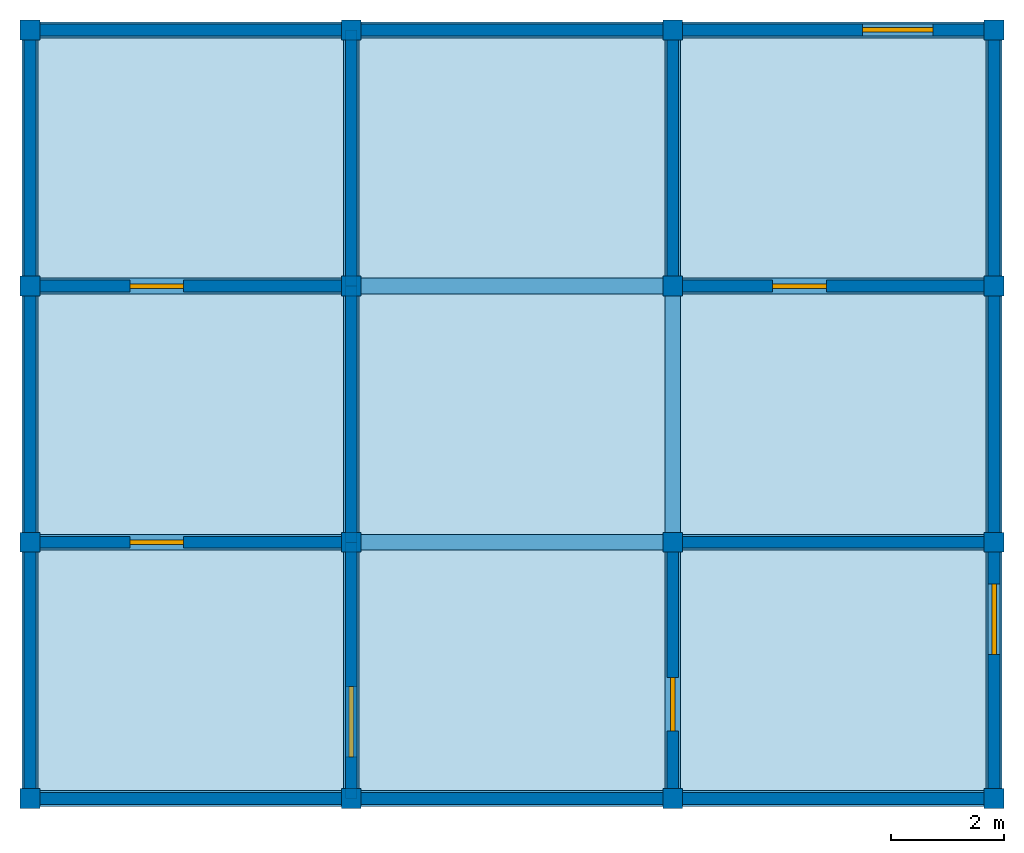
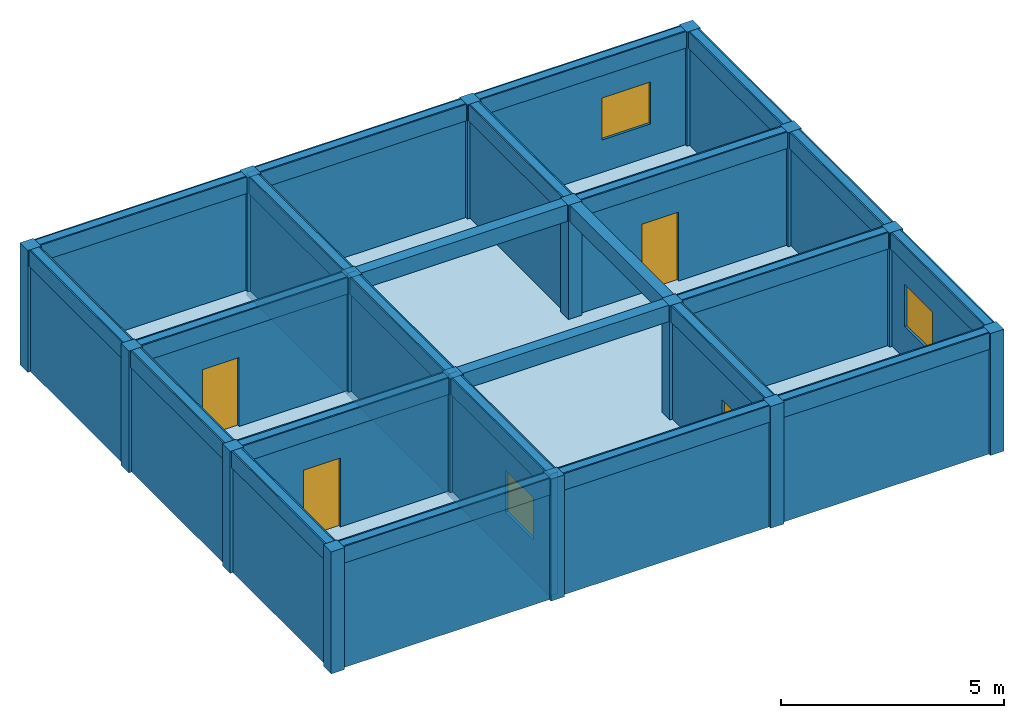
# One storey: 24 beams, 24 walls, 16 columns, 4 doors, 3 windows, 1 slab, 7 openings.
"""IFC4X3 building model written with IfcOpenShell, lengths in metres."""

import ifcopenshell
import ifcopenshell.guid

model = None  # the IFC model being written
_history = None  # IfcOwnerHistory: only IFC2X3 demands one
_inside = {}  # id of a spatial element -> (the spatial element, [elements in it])
_under = {}  # id of a project, library or spatial element -> (it, [spatial elements below it])
_declared = {}  # id of a project -> (the project, [libraries it declares])
_typed = {}  # id of a type object -> (the type object, [elements of that type])
_made_of = {}  # id of a material, layer set ... -> (it, [elements and type objects made of it])


def new_model(schema):
    """Start an empty IFC model of exactly this schema.

    Asked for "IFC4X3", IfcOpenShell would pick the latest addendum, in which some entities
    have other attributes; the version numbers below select the first issue.
    IFC2X3 requires an IfcOwnerHistory on every rooted entity: one is made here for all.
    """
    global model, _history
    if schema == "IFC4X3":
        model = ifcopenshell.file(schema_version=(4, 3, 0, 0))
    else:
        model = ifcopenshell.file(schema=schema)
    _inside.clear()
    _under.clear()
    _declared.clear()
    _typed.clear()
    _made_of.clear()
    _history = None
    if model.schema == "IFC2X3":
        org = make("IfcOrganization", Name="unknown")
        user = make(
            "IfcPersonAndOrganization",
            ThePerson=make("IfcPerson", FamilyName="unknown"),
            TheOrganization=org,
        )
        app = make(
            "IfcApplication",
            ApplicationDeveloper=org,
            Version="unknown",
            ApplicationFullName="unknown",
            ApplicationIdentifier="unknown",
        )
        _history = make(
            "IfcOwnerHistory",
            OwningUser=user,
            OwningApplication=app,
            ChangeAction="ADDED",
            CreationDate=0,
        )
    return model


def make(cls, **values):
    """One entity of the class cls with the attributes given. An attribute that is None is left unset."""
    return model.create_entity(
        cls, **{name: value for name, value in values.items() if value is not None}
    )


def rooted(cls, **values):
    """An entity with a GlobalId (a new one), such as an element, a storey or a relation."""
    return make(cls, GlobalId=ifcopenshell.guid.new(), OwnerHistory=_history, **values)


def si_unit(unit_type, name, prefix=None):
    """IfcSIUnit, for example si_unit("LENGTHUNIT", "METRE", prefix="MILLI")."""
    return make("IfcSIUnit", UnitType=unit_type, Prefix=prefix, Name=name)


def assignment(units):
    """IfcUnitAssignment: the units of a project."""
    return None if units is None else make("IfcUnitAssignment", Units=units)


def point(xyz):
    """IfcCartesianPoint."""
    return None if xyz is None else make("IfcCartesianPoint", Coordinates=xyz)


def direction(xyz):
    """IfcDirection."""
    return None if xyz is None else make("IfcDirection", DirectionRatios=xyz)


def frame(location, z_axis=None, x_axis=None):
    """IfcAxis2Placement3D, a coordinate frame: its origin and axes. An axis left out is left unset."""
    return make(
        "IfcAxis2Placement3D",
        Location=point(location),
        Axis=direction(z_axis),
        RefDirection=direction(x_axis),
    )


def frame_2d(location, x_axis=None):
    """IfcAxis2Placement2D, a coordinate frame in the plane: its origin and x axis."""
    return make(
        "IfcAxis2Placement2D", Location=point(location), RefDirection=direction(x_axis)
    )


def origin_with_axes():
    """The frame at (0, 0, 0) with the z axis (0, 0, 1) and the x axis (1, 0, 0) written out."""
    return frame((0.0, 0.0, 0.0), z_axis=(0.0, 0.0, 1.0), x_axis=(1.0, 0.0, 0.0))


def origin_2d():
    """The frame at (0, 0) in the plane with its x axis left unset."""
    return frame_2d((0.0, 0.0))


def place(relative_to, where):
    """IfcLocalPlacement: puts the frame where relative to a parent placement (None: the world)."""
    return make(
        "IfcLocalPlacement", PlacementRelTo=relative_to, RelativePlacement=where
    )


def context(
    kind, dimensions, precision=None, world=None, true_north=None, identifier=None
):
    """IfcGeometricRepresentationContext, for example the 3D "Model" context."""
    return make(
        "IfcGeometricRepresentationContext",
        ContextIdentifier=identifier,
        ContextType=kind,
        CoordinateSpaceDimension=dimensions,
        Precision=precision,
        WorldCoordinateSystem=world,
        TrueNorth=true_north,
    )


def project(units=None, contexts=None):
    """IfcProject with its units and contexts."""
    return rooted(
        "IfcProject",
        Name="project",
        RepresentationContexts=contexts,
        UnitsInContext=assignment(units),
    )


def spatial(cls, under=None, at=None, **own):
    """A site, building, storey or space (cls), placed at a placement, below another one or the project."""
    s = rooted(cls, ObjectPlacement=at, **own)
    if under is not None:
        _under.setdefault(under.id(), (under, []))[1].append(s)
    return s


def profile(cls, at=None, kind="AREA", **sizes):
    """A parametric profile (cls). Its sizes go by their IFC names, for example OverallWidth=200.0."""
    return make(cls, ProfileType=kind, Position=at, **sizes)


def rectangle(**sizes):
    """IfcRectangleProfileDef."""
    return profile("IfcRectangleProfileDef", **sizes)


def extrude(swept, where, along, depth):
    """IfcExtrudedAreaSolid: the profile swept, set in the frame where, extruded along a direction by depth."""
    return make(
        "IfcExtrudedAreaSolid",
        SweptArea=swept,
        Position=where,
        ExtrudedDirection=direction(along),
        Depth=depth,
    )


def shape(context_of_items, identifier, shape_type, items):
    """IfcShapeRepresentation: the items that make up one representation, for example the "Body"."""
    return make(
        "IfcShapeRepresentation",
        ContextOfItems=context_of_items,
        RepresentationIdentifier=identifier,
        RepresentationType=shape_type,
        Items=items,
    )


def material(Name=None, Category=None):
    """IfcMaterial."""
    return make("IfcMaterial", Name=Name, Category=Category)


def made_of(thing, what):
    """Note that an element or type object is made of a material, layer set ...; save() writes the relation."""
    if what is not None:
        _made_of.setdefault(what.id(), (what, []))[1].append(thing)
    return thing


def element(
    cls,
    number,
    at=None,
    inside=None,
    cuts=None,
    type_object=None,
    material=None,
    context=None,
    identifier="Body",
    shape_type=None,
    held_by="IfcProductDefinitionShape",
    body=None,
    shapes=None,
    **own,
):
    """One element of the class cls, such as IfcWall. Its Tag is "e" and its number.

    at: its placement. inside: the storey or other place that contains it. cuts: it is an
    opening in that element (IfcRelVoidsElement). A single representation is given by context,
    identifier, shape_type and body (its items); several are given by shapes. held_by: the class
    of the entity that holds the representations. save() writes the other relations.
    """
    e = rooted(cls, Tag="e%d" % number, ObjectPlacement=at, **own)
    if body is not None:
        shapes = [shape(context, identifier, shape_type, body)]
    if shapes is not None:
        e.Representation = make(held_by, Representations=shapes)
    if inside is not None:
        _inside.setdefault(inside.id(), (inside, []))[1].append(e)
    if cuts is not None:
        rooted(
            "IfcRelVoidsElement", RelatingBuildingElement=cuts, RelatedOpeningElement=e
        )
    if type_object is not None:
        _typed.setdefault(type_object.id(), (type_object, []))[1].append(e)
    return made_of(e, material)


def fill(opening, filler):
    """IfcRelFillsElement: the door or window that sits in an opening."""
    return rooted(
        "IfcRelFillsElement",
        RelatingOpeningElement=opening,
        RelatedBuildingElement=filler,
    )


def aggregate(whole, parts):
    """IfcRelAggregates: a whole, such as a stair, and the parts it consists of."""
    return rooted("IfcRelAggregates", RelatingObject=whole, RelatedObjects=parts)


def save(model, path):
    """Write the relations noted so far, then the file.

    IfcRelAggregates (storeys below a building ...), IfcRelContainedInSpatialStructure (elements
    in a storey), IfcRelDefinesByType, IfcRelAssociatesMaterial and IfcRelDeclares: one each for
    every whole, place, type object, material and project.
    """
    for whole, parts in _under.values():
        aggregate(whole, parts)
    for where, things in _inside.values():
        rooted(
            "IfcRelContainedInSpatialStructure",
            RelatedElements=things,
            RelatingStructure=where,
        )
    for kind, things in _typed.values():
        rooted("IfcRelDefinesByType", RelatedObjects=things, RelatingType=kind)
    for what, things in _made_of.values():
        rooted("IfcRelAssociatesMaterial", RelatedObjects=things, RelatingMaterial=what)
    for by, libraries in _declared.values():
        rooted("IfcRelDeclares", RelatingContext=by, RelatedDefinitions=libraries)
    model.write(path)


model = new_model("IFC4X3")

# Units and contexts
model_context = context("Model", 3, precision=1e-05, world=origin_with_axes())
ifc_project = project(units=[si_unit("LENGTHUNIT", "METRE"), si_unit("AREAUNIT", "SQUARE_METRE"), si_unit("VOLUMEUNIT", "CUBIC_METRE")], contexts=[model_context])

# Site, building, storey
site = spatial("IfcSite", under=ifc_project, Name="Valdivia Parcel", CompositionType="ELEMENT")
building = spatial("IfcBuilding", under=site, Name="Strata Block", CompositionType="ELEMENT")
storey = spatial("IfcBuildingStorey", under=building, Name="Level 7", CompositionType="ELEMENT", Elevation=20.01)

# Columns
ifc_material_1 = material(Name="Concrete")
column_1_placement = place(None, frame((-8.525, -6.795, 20.013), z_axis=(0.0, 0.0, 1.0), x_axis=(1.0, 0.0, 0.0)))
element("IfcColumn", 1, at=column_1_placement, inside=storey, material=ifc_material_1, Name="Column 7.1", ObjectType="Core Column", PredefinedType="PILASTER", context=model_context, shape_type="SweptSolid", body=[
    extrude(rectangle(XDim=0.35, YDim=0.35, at=origin_2d()), origin_with_axes(), (0.0, 0.0, 1.0), 3.335),
])
column_2_placement = place(None, frame((-8.525, -2.265, 20.013), z_axis=(0.0, 0.0, 1.0), x_axis=(1.0, 0.0, 0.0)))
element("IfcColumn", 2, at=column_2_placement, inside=storey, material=ifc_material_1, Name="Column 7.2", ObjectType="Corner Column", PredefinedType="USERDEFINED", context=model_context, shape_type="SweptSolid", body=[
    extrude(rectangle(XDim=0.35, YDim=0.35, at=origin_2d()), origin_with_axes(), (0.0, 0.0, 1.0), 3.335),
])
column_3_placement = place(None, frame((-8.525, 2.265, 20.013), z_axis=(0.0, 0.0, 1.0), x_axis=(1.0, 0.0, 0.0)))
element("IfcColumn", 3, at=column_3_placement, inside=storey, material=ifc_material_1, Name="Column 7.3", ObjectType="Core Column", PredefinedType="COLUMN", context=model_context, shape_type="SweptSolid", body=[
    extrude(rectangle(XDim=0.35, YDim=0.35, at=origin_2d()), origin_with_axes(), (0.0, 0.0, 1.0), 3.335),
])
column_4_placement = place(None, frame((-8.525, 6.795, 20.013), z_axis=(0.0, 0.0, 1.0), x_axis=(1.0, 0.0, 0.0)))
element("IfcColumn", 4, at=column_4_placement, inside=storey, material=ifc_material_1, Name="Column 7.4", ObjectType="Facade Column", PredefinedType="NOTDEFINED", context=model_context, shape_type="SweptSolid", body=[
    extrude(rectangle(XDim=0.35, YDim=0.35, at=origin_2d()), origin_with_axes(), (0.0, 0.0, 1.0), 3.335),
])
column_5_placement = place(None, frame((-2.842, -6.795, 20.013), z_axis=(0.0, 0.0, 1.0), x_axis=(1.0, 0.0, 0.0)))
element("IfcColumn", 5, at=column_5_placement, inside=storey, material=ifc_material_1, Name="Column 7.5", ObjectType="Core Column", PredefinedType="NOTDEFINED", context=model_context, shape_type="SweptSolid", body=[
    extrude(rectangle(XDim=0.35, YDim=0.35, at=origin_2d()), origin_with_axes(), (0.0, 0.0, 1.0), 3.335),
])
column_6_placement = place(None, frame((-2.842, -2.265, 20.013), z_axis=(0.0, 0.0, 1.0), x_axis=(1.0, 0.0, 0.0)))
element("IfcColumn", 6, at=column_6_placement, inside=storey, material=ifc_material_1, Name="Column 7.6", ObjectType="Core Column", PredefinedType="PILASTER", context=model_context, shape_type="SweptSolid", body=[
    extrude(rectangle(XDim=0.35, YDim=0.35, at=origin_2d()), origin_with_axes(), (0.0, 0.0, 1.0), 3.335),
])
column_7_placement = place(None, frame((-2.842, 2.265, 20.013), z_axis=(0.0, 0.0, 1.0), x_axis=(1.0, 0.0, 0.0)))
element("IfcColumn", 7, at=column_7_placement, inside=storey, material=ifc_material_1, Name="Column 7.7", ObjectType="Structural Column", PredefinedType="COLUMN", context=model_context, shape_type="SweptSolid", body=[
    extrude(rectangle(XDim=0.35, YDim=0.35, at=origin_2d()), origin_with_axes(), (0.0, 0.0, 1.0), 3.335),
])
column_8_placement = place(None, frame((-2.842, 6.795, 20.013), z_axis=(0.0, 0.0, 1.0), x_axis=(1.0, 0.0, 0.0)))
element("IfcColumn", 8, at=column_8_placement, inside=storey, material=ifc_material_1, Name="Column 7.8", ObjectType="Corner Column", PredefinedType="COLUMN", context=model_context, shape_type="SweptSolid", body=[
    extrude(rectangle(XDim=0.35, YDim=0.35, at=origin_2d()), origin_with_axes(), (0.0, 0.0, 1.0), 3.335),
])
column_9_placement = place(None, frame((2.841, -6.795, 20.013), z_axis=(0.0, 0.0, 1.0), x_axis=(1.0, 0.0, 0.0)))
element("IfcColumn", 9, at=column_9_placement, inside=storey, material=ifc_material_1, Name="Column 7.9", ObjectType="Facade Column", PredefinedType="USERDEFINED", context=model_context, shape_type="SweptSolid", body=[
    extrude(rectangle(XDim=0.35, YDim=0.35, at=origin_2d()), origin_with_axes(), (0.0, 0.0, 1.0), 3.335),
])
column_10_placement = place(None, frame((2.841, -2.265, 20.013), z_axis=(0.0, 0.0, 1.0), x_axis=(1.0, 0.0, 0.0)))
element("IfcColumn", 10, at=column_10_placement, inside=storey, material=ifc_material_1, Name="Column 7.10", ObjectType="Structural Column", PredefinedType="COLUMN", context=model_context, shape_type="SweptSolid", body=[
    extrude(rectangle(XDim=0.35, YDim=0.35, at=origin_2d()), origin_with_axes(), (0.0, 0.0, 1.0), 3.335),
])
column_11_placement = place(None, frame((2.841, 2.265, 20.013), z_axis=(0.0, 0.0, 1.0), x_axis=(1.0, 0.0, 0.0)))
element("IfcColumn", 11, at=column_11_placement, inside=storey, material=ifc_material_1, Name="Column 7.11", ObjectType="Structural Column", PredefinedType="PILASTER", context=model_context, shape_type="SweptSolid", body=[
    extrude(rectangle(XDim=0.35, YDim=0.35, at=origin_2d()), origin_with_axes(), (0.0, 0.0, 1.0), 3.335),
])
column_12_placement = place(None, frame((2.841, 6.795, 20.013), z_axis=(0.0, 0.0, 1.0), x_axis=(1.0, 0.0, 0.0)))
element("IfcColumn", 12, at=column_12_placement, inside=storey, material=ifc_material_1, Name="Column 7.12", ObjectType="Corner Column", PredefinedType="USERDEFINED", context=model_context, shape_type="SweptSolid", body=[
    extrude(rectangle(XDim=0.35, YDim=0.35, at=origin_2d()), origin_with_axes(), (0.0, 0.0, 1.0), 3.335),
])
column_13_placement = place(None, frame((8.524, -6.795, 20.013), z_axis=(0.0, 0.0, 1.0), x_axis=(1.0, 0.0, 0.0)))
element("IfcColumn", 13, at=column_13_placement, inside=storey, material=ifc_material_1, Name="Column 7.13", ObjectType="Structural Column", PredefinedType="NOTDEFINED", context=model_context, shape_type="SweptSolid", body=[
    extrude(rectangle(XDim=0.35, YDim=0.35, at=origin_2d()), origin_with_axes(), (0.0, 0.0, 1.0), 3.335),
])
column_14_placement = place(None, frame((8.524, -2.265, 20.013), z_axis=(0.0, 0.0, 1.0), x_axis=(1.0, 0.0, 0.0)))
element("IfcColumn", 14, at=column_14_placement, inside=storey, material=ifc_material_1, Name="Column 7.14", ObjectType="Core Column", PredefinedType="USERDEFINED", context=model_context, shape_type="SweptSolid", body=[
    extrude(rectangle(XDim=0.35, YDim=0.35, at=origin_2d()), origin_with_axes(), (0.0, 0.0, 1.0), 3.335),
])
column_15_placement = place(None, frame((8.524, 2.265, 20.013), z_axis=(0.0, 0.0, 1.0), x_axis=(1.0, 0.0, 0.0)))
element("IfcColumn", 15, at=column_15_placement, inside=storey, material=ifc_material_1, Name="Column 7.15", ObjectType="Facade Column", PredefinedType="PILASTER", context=model_context, shape_type="SweptSolid", body=[
    extrude(rectangle(XDim=0.35, YDim=0.35, at=origin_2d()), origin_with_axes(), (0.0, 0.0, 1.0), 3.335),
])
column_16_placement = place(None, frame((8.524, 6.795, 20.013), z_axis=(0.0, 0.0, 1.0), x_axis=(1.0, 0.0, 0.0)))
element("IfcColumn", 16, at=column_16_placement, inside=storey, material=ifc_material_1, Name="Column 7.16", ObjectType="Corner Column", PredefinedType="COLUMN", context=model_context, shape_type="SweptSolid", body=[
    extrude(rectangle(XDim=0.35, YDim=0.35, at=origin_2d()), origin_with_axes(), (0.0, 0.0, 1.0), 3.335),
])

# Beams
beam_1_placement = place(None, frame((-5.684, -6.795, 22.898), z_axis=(0.0, 0.0, 1.0), x_axis=(1.0, 0.0, 0.0)))
element("IfcBeam", 17, at=beam_1_placement, inside=storey, material=ifc_material_1, Name="Beam 7.1", ObjectType="Ridge Beam", PredefinedType="SPANDREL", context=model_context, shape_type="SweptSolid", body=[
    extrude(rectangle(XDim=5.683, YDim=0.28, at=origin_2d()), origin_with_axes(), (0.0, 0.0, 1.0), 0.45),
])
beam_2_placement = place(None, frame((0.0, -6.795, 22.898), z_axis=(0.0, 0.0, 1.0), x_axis=(1.0, 0.0, 0.0)))
element("IfcBeam", 18, at=beam_2_placement, inside=storey, material=ifc_material_1, Name="Beam 7.2", ObjectType="Primary Beam", PredefinedType="NOTDEFINED", context=model_context, shape_type="SweptSolid", body=[
    extrude(rectangle(XDim=5.683, YDim=0.28, at=origin_2d()), origin_with_axes(), (0.0, 0.0, 1.0), 0.45),
])
beam_3_placement = place(None, frame((5.682, -6.795, 22.898), z_axis=(0.0, 0.0, 1.0), x_axis=(1.0, 0.0, 0.0)))
element("IfcBeam", 19, at=beam_3_placement, inside=storey, material=ifc_material_1, Name="Beam 7.3", ObjectType="Primary Beam", PredefinedType="SPANDREL", context=model_context, shape_type="SweptSolid", body=[
    extrude(rectangle(XDim=5.683, YDim=0.28, at=origin_2d()), origin_with_axes(), (0.0, 0.0, 1.0), 0.45),
])
beam_4_placement = place(None, frame((-5.684, -2.265, 22.898), z_axis=(0.0, 0.0, 1.0), x_axis=(1.0, 0.0, 0.0)))
element("IfcBeam", 20, at=beam_4_placement, inside=storey, material=ifc_material_1, Name="Beam 7.4", ObjectType="Primary Beam", PredefinedType="BEAM", context=model_context, shape_type="SweptSolid", body=[
    extrude(rectangle(XDim=5.683, YDim=0.28, at=origin_2d()), origin_with_axes(), (0.0, 0.0, 1.0), 0.45),
])
beam_5_placement = place(None, frame((0.0, -2.265, 22.898), z_axis=(0.0, 0.0, 1.0), x_axis=(1.0, 0.0, 0.0)))
element("IfcBeam", 21, at=beam_5_placement, inside=storey, material=ifc_material_1, Name="Beam 7.5", ObjectType="Ridge Beam", PredefinedType="BEAM", context=model_context, shape_type="SweptSolid", body=[
    extrude(rectangle(XDim=5.683, YDim=0.28, at=origin_2d()), origin_with_axes(), (0.0, 0.0, 1.0), 0.45),
])
beam_6_placement = place(None, frame((5.682, -2.265, 22.898), z_axis=(0.0, 0.0, 1.0), x_axis=(1.0, 0.0, 0.0)))
element("IfcBeam", 22, at=beam_6_placement, inside=storey, material=ifc_material_1, Name="Beam 7.6", ObjectType="Ridge Beam", PredefinedType="SPANDREL", context=model_context, shape_type="SweptSolid", body=[
    extrude(rectangle(XDim=5.683, YDim=0.28, at=origin_2d()), origin_with_axes(), (0.0, 0.0, 1.0), 0.45),
])
beam_7_placement = place(None, frame((-5.684, 2.265, 22.898), z_axis=(0.0, 0.0, 1.0), x_axis=(1.0, 0.0, 0.0)))
element("IfcBeam", 23, at=beam_7_placement, inside=storey, material=ifc_material_1, Name="Beam 7.7", ObjectType="Transfer Beam", PredefinedType="NOTDEFINED", context=model_context, shape_type="SweptSolid", body=[
    extrude(rectangle(XDim=5.683, YDim=0.28, at=origin_2d()), origin_with_axes(), (0.0, 0.0, 1.0), 0.45),
])
beam_8_placement = place(None, frame((0.0, 2.265, 22.898), z_axis=(0.0, 0.0, 1.0), x_axis=(1.0, 0.0, 0.0)))
element("IfcBeam", 24, at=beam_8_placement, inside=storey, material=ifc_material_1, Name="Beam 7.8", ObjectType="Rafter Beam", PredefinedType="SPANDREL", context=model_context, shape_type="SweptSolid", body=[
    extrude(rectangle(XDim=5.683, YDim=0.28, at=origin_2d()), origin_with_axes(), (0.0, 0.0, 1.0), 0.45),
])
beam_9_placement = place(None, frame((5.682, 2.265, 22.898), z_axis=(0.0, 0.0, 1.0), x_axis=(1.0, 0.0, 0.0)))
element("IfcBeam", 25, at=beam_9_placement, inside=storey, material=ifc_material_1, Name="Beam 7.9", ObjectType="Primary Beam", PredefinedType="HOLLOWCORE", context=model_context, shape_type="SweptSolid", body=[
    extrude(rectangle(XDim=5.683, YDim=0.28, at=origin_2d()), origin_with_axes(), (0.0, 0.0, 1.0), 0.45),
])
beam_10_placement = place(None, frame((-5.684, 6.795, 22.898), z_axis=(0.0, 0.0, 1.0), x_axis=(1.0, 0.0, 0.0)))
element("IfcBeam", 26, at=beam_10_placement, inside=storey, material=ifc_material_1, Name="Beam 7.10", ObjectType="Primary Beam", PredefinedType="USERDEFINED", context=model_context, shape_type="SweptSolid", body=[
    extrude(rectangle(XDim=5.683, YDim=0.28, at=origin_2d()), origin_with_axes(), (0.0, 0.0, 1.0), 0.45),
])
beam_11_placement = place(None, frame((0.0, 6.795, 22.898), z_axis=(0.0, 0.0, 1.0), x_axis=(1.0, 0.0, 0.0)))
element("IfcBeam", 27, at=beam_11_placement, inside=storey, material=ifc_material_1, Name="Beam 7.11", ObjectType="Rafter Beam", PredefinedType="LINTEL", context=model_context, shape_type="SweptSolid", body=[
    extrude(rectangle(XDim=5.683, YDim=0.28, at=origin_2d()), origin_with_axes(), (0.0, 0.0, 1.0), 0.45),
])
beam_12_placement = place(None, frame((5.682, 6.795, 22.898), z_axis=(0.0, 0.0, 1.0), x_axis=(1.0, 0.0, 0.0)))
element("IfcBeam", 28, at=beam_12_placement, inside=storey, material=ifc_material_1, Name="Beam 7.12", ObjectType="Transfer Beam", PredefinedType="SPANDREL", context=model_context, shape_type="SweptSolid", body=[
    extrude(rectangle(XDim=5.683, YDim=0.28, at=origin_2d()), origin_with_axes(), (0.0, 0.0, 1.0), 0.45),
])
beam_13_placement = place(None, frame((-8.525, -4.53, 22.898), z_axis=(0.0, 0.0, 1.0), x_axis=(0.0, 1.0, 0.0)))
element("IfcBeam", 29, at=beam_13_placement, inside=storey, material=ifc_material_1, Name="Beam 7.13", ObjectType="Rafter Beam", PredefinedType="HOLLOWCORE", context=model_context, shape_type="SweptSolid", body=[
    extrude(rectangle(XDim=4.53, YDim=0.28, at=origin_2d()), origin_with_axes(), (0.0, 0.0, 1.0), 0.45),
])
beam_14_placement = place(None, frame((-8.525, 0.0, 22.898), z_axis=(0.0, 0.0, 1.0), x_axis=(0.0, 1.0, 0.0)))
element("IfcBeam", 30, at=beam_14_placement, inside=storey, material=ifc_material_1, Name="Beam 7.14", ObjectType="Secondary Beam", PredefinedType="LINTEL", context=model_context, shape_type="SweptSolid", body=[
    extrude(rectangle(XDim=4.53, YDim=0.28, at=origin_2d()), origin_with_axes(), (0.0, 0.0, 1.0), 0.45),
])
beam_15_placement = place(None, frame((-8.525, 4.53, 22.898), z_axis=(0.0, 0.0, 1.0), x_axis=(0.0, 1.0, 0.0)))
element("IfcBeam", 31, at=beam_15_placement, inside=storey, material=ifc_material_1, Name="Beam 7.15", ObjectType="Transfer Beam", PredefinedType="USERDEFINED", context=model_context, shape_type="SweptSolid", body=[
    extrude(rectangle(XDim=4.53, YDim=0.28, at=origin_2d()), origin_with_axes(), (0.0, 0.0, 1.0), 0.45),
])
beam_16_placement = place(None, frame((-2.842, -4.53, 22.898), z_axis=(0.0, 0.0, 1.0), x_axis=(0.0, 1.0, 0.0)))
element("IfcBeam", 32, at=beam_16_placement, inside=storey, material=ifc_material_1, Name="Beam 7.16", ObjectType="Primary Beam", PredefinedType="HOLLOWCORE", context=model_context, shape_type="SweptSolid", body=[
    extrude(rectangle(XDim=4.53, YDim=0.28, at=origin_2d()), origin_with_axes(), (0.0, 0.0, 1.0), 0.45),
])
beam_17_placement = place(None, frame((-2.842, 0.0, 22.898), z_axis=(0.0, 0.0, 1.0), x_axis=(0.0, 1.0, 0.0)))
element("IfcBeam", 33, at=beam_17_placement, inside=storey, material=ifc_material_1, Name="Beam 7.17", ObjectType="Secondary Beam", PredefinedType="HOLLOWCORE", context=model_context, shape_type="SweptSolid", body=[
    extrude(rectangle(XDim=4.53, YDim=0.28, at=origin_2d()), origin_with_axes(), (0.0, 0.0, 1.0), 0.45),
])
beam_18_placement = place(None, frame((-2.842, 4.53, 22.898), z_axis=(0.0, 0.0, 1.0), x_axis=(0.0, 1.0, 0.0)))
element("IfcBeam", 34, at=beam_18_placement, inside=storey, material=ifc_material_1, Name="Beam 7.18", ObjectType="Rafter Beam", PredefinedType="JOIST", context=model_context, shape_type="SweptSolid", body=[
    extrude(rectangle(XDim=4.53, YDim=0.28, at=origin_2d()), origin_with_axes(), (0.0, 0.0, 1.0), 0.45),
])
beam_19_placement = place(None, frame((2.841, -4.53, 22.898), z_axis=(0.0, 0.0, 1.0), x_axis=(0.0, 1.0, 0.0)))
element("IfcBeam", 35, at=beam_19_placement, inside=storey, material=ifc_material_1, Name="Beam 7.19", ObjectType="Transfer Beam", PredefinedType="JOIST", context=model_context, shape_type="SweptSolid", body=[
    extrude(rectangle(XDim=4.53, YDim=0.28, at=origin_2d()), origin_with_axes(), (0.0, 0.0, 1.0), 0.45),
])
beam_20_placement = place(None, frame((2.841, 0.0, 22.898), z_axis=(0.0, 0.0, 1.0), x_axis=(0.0, 1.0, 0.0)))
element("IfcBeam", 36, at=beam_20_placement, inside=storey, material=ifc_material_1, Name="Beam 7.20", ObjectType="Transfer Beam", PredefinedType="USERDEFINED", context=model_context, shape_type="SweptSolid", body=[
    extrude(rectangle(XDim=4.53, YDim=0.28, at=origin_2d()), origin_with_axes(), (0.0, 0.0, 1.0), 0.45),
])
beam_21_placement = place(None, frame((2.841, 4.53, 22.898), z_axis=(0.0, 0.0, 1.0), x_axis=(0.0, 1.0, 0.0)))
element("IfcBeam", 37, at=beam_21_placement, inside=storey, material=ifc_material_1, Name="Beam 7.21", ObjectType="Secondary Beam", PredefinedType="USERDEFINED", context=model_context, shape_type="SweptSolid", body=[
    extrude(rectangle(XDim=4.53, YDim=0.28, at=origin_2d()), origin_with_axes(), (0.0, 0.0, 1.0), 0.45),
])
beam_22_placement = place(None, frame((8.524, -4.53, 22.898), z_axis=(0.0, 0.0, 1.0), x_axis=(0.0, 1.0, 0.0)))
element("IfcBeam", 38, at=beam_22_placement, inside=storey, material=ifc_material_1, Name="Beam 7.22", ObjectType="Rafter Beam", PredefinedType="BEAM", context=model_context, shape_type="SweptSolid", body=[
    extrude(rectangle(XDim=4.53, YDim=0.28, at=origin_2d()), origin_with_axes(), (0.0, 0.0, 1.0), 0.45),
])
beam_23_placement = place(None, frame((8.524, 0.0, 22.898), z_axis=(0.0, 0.0, 1.0), x_axis=(0.0, 1.0, 0.0)))
element("IfcBeam", 39, at=beam_23_placement, inside=storey, material=ifc_material_1, Name="Beam 7.23", ObjectType="Transfer Beam", PredefinedType="HOLLOWCORE", context=model_context, shape_type="SweptSolid", body=[
    extrude(rectangle(XDim=4.53, YDim=0.28, at=origin_2d()), origin_with_axes(), (0.0, 0.0, 1.0), 0.45),
])
beam_24_placement = place(None, frame((8.524, 4.53, 22.898), z_axis=(0.0, 0.0, 1.0), x_axis=(0.0, 1.0, 0.0)))
element("IfcBeam", 40, at=beam_24_placement, inside=storey, material=ifc_material_1, Name="Beam 7.24", ObjectType="Ridge Beam", PredefinedType="NOTDEFINED", context=model_context, shape_type="SweptSolid", body=[
    extrude(rectangle(XDim=4.53, YDim=0.28, at=origin_2d()), origin_with_axes(), (0.0, 0.0, 1.0), 0.45),
])

# Slab
ifc_material_2 = material(Name="Composite")
slab_placement = place(None, frame((0.0, 0.0, 20.01), z_axis=(0.0, 0.0, 1.0), x_axis=(1.0, 0.0, 0.0)))
element("IfcSlab", 41, at=slab_placement, inside=storey, material=ifc_material_2, Name="Slab 7", ObjectType="Floor Slab", PredefinedType="FLOOR", context=model_context, shape_type="SweptSolid", body=[
    extrude(rectangle(XDim=17.05, YDim=13.59, at=origin_2d()), origin_with_axes(), (0.0, 0.0, 1.0), 0.22),
])

# Wall, opening, door
ifc_material_3 = material(Name="CLT")
wall_1_placement = place(None, frame((-5.684, -2.265, 20.013), z_axis=(0.0, 0.0, 1.0), x_axis=(1.0, 0.0, 0.0)))
wall_1 = element("IfcWall", 42, at=wall_1_placement, inside=storey, material=ifc_material_3, Name="Wall 7.1", ObjectType="Corridor Partition", PredefinedType="MOVABLE", context=model_context, shape_type="SweptSolid", body=[
    extrude(rectangle(XDim=5.683, YDim=0.208139, at=origin_2d()), origin_with_axes(), (0.0, 0.0, 1.0), 3.335),
])
opening_1_placement = place(None, frame((-6.284, -2.265, 20.013), z_axis=(0.0, 0.0, 1.0), x_axis=(1.0, 0.0, 0.0)))
opening_1 = element("IfcOpeningElement", 43, at=opening_1_placement, cuts=wall_1, Name="Door opening 7.1", ObjectType="Door Opening", PredefinedType="OPENING", context=model_context, shape_type="SweptSolid", body=[
    extrude(rectangle(XDim=0.95, YDim=0.288139, at=origin_2d()), origin_with_axes(), (0.0, 0.0, 1.0), 2.1),
])
door_1_placement = place(None, frame((-6.284, -2.265, 20.013), z_axis=(0.0, 0.0, 1.0), x_axis=(1.0, 0.0, 0.0)))
door_1 = element("IfcDoor", 44, at=door_1_placement, inside=storey, Name="Door 7.1", ObjectType="Entry Door", OverallHeight=2.1, OverallWidth=0.95, context=model_context, shape_type="SweptSolid", body=[
    extrude(rectangle(XDim=0.95, YDim=0.08, at=origin_2d()), origin_with_axes(), (0.0, 0.0, 1.0), 2.1),
])
fill(opening_1, door_1)

# Wall, opening, window
ifc_material_4 = material(Name="Brick")
wall_2_placement = place(None, frame((-2.8425, -4.53, 20.013), z_axis=(0.0, 0.0, 1.0), x_axis=(0.0, 1.0, 0.0)))
wall_2 = element("IfcWall", 45, at=wall_2_placement, inside=storey, material=ifc_material_4, Name="Wall 7.2", ObjectType="Exterior Wall", PredefinedType="USERDEFINED", context=model_context, shape_type="SweptSolid", body=[
    extrude(rectangle(XDim=4.53, YDim=0.208139, at=origin_2d()), origin_with_axes(), (0.0, 0.0, 1.0), 3.335),
])
opening_2_placement = place(None, frame((-2.843, -5.436, 21.113), z_axis=(0.0, 0.0, 1.0), x_axis=(0.0, 1.0, 0.0)))
opening_2 = element("IfcOpeningElement", 46, at=opening_2_placement, cuts=wall_2, Name="Window opening 7.2", ObjectType="Window Opening", PredefinedType="OPENING", context=model_context, shape_type="SweptSolid", body=[
    extrude(rectangle(XDim=1.25, YDim=0.288139, at=origin_2d()), origin_with_axes(), (0.0, 0.0, 1.0), 1.15),
])
window_1_placement = place(None, frame((-2.843, -5.436, 21.113), z_axis=(0.0, 0.0, 1.0), x_axis=(0.0, 1.0, 0.0)))
window_1 = element("IfcWindow", 47, at=window_1_placement, inside=storey, Name="Window 7.2", ObjectType="Fixed Window", OverallHeight=1.15, OverallWidth=1.25, context=model_context, shape_type="SweptSolid", body=[
    extrude(rectangle(XDim=1.25, YDim=0.08, at=origin_2d()), origin_with_axes(), (0.0, 0.0, 1.0), 1.15),
])
fill(opening_2, window_1)

# Walls
wall_3_placement = place(None, frame((-5.684, -6.795, 20.013), z_axis=(0.0, 0.0, 1.0), x_axis=(1.0, 0.0, 0.0)))
element("IfcWall", 48, at=wall_3_placement, inside=storey, material=ifc_material_1, Name="Wall 7.3", ObjectType="Exterior Wall", PredefinedType="NOTDEFINED", context=model_context, shape_type="SweptSolid", body=[
    extrude(rectangle(XDim=5.683, YDim=0.208139, at=origin_2d()), origin_with_axes(), (0.0, 0.0, 1.0), 3.335),
])
wall_4_placement = place(None, frame((-8.5255, -4.53, 20.013), z_axis=(0.0, 0.0, 1.0), x_axis=(0.0, 1.0, 0.0)))
element("IfcWall", 49, at=wall_4_placement, inside=storey, material=ifc_material_3, Name="Wall 7.4", ObjectType="Exterior Wall", PredefinedType="SOLIDWALL", context=model_context, shape_type="SweptSolid", body=[
    extrude(rectangle(XDim=4.53, YDim=0.208139, at=origin_2d()), origin_with_axes(), (0.0, 0.0, 1.0), 3.335),
])

# Wall, opening, door
wall_5_placement = place(None, frame((2.8405, -4.53, 20.013), z_axis=(0.0, 0.0, 1.0), x_axis=(0.0, 1.0, 0.0)))
wall_5 = element("IfcWall", 50, at=wall_5_placement, inside=storey, material=ifc_material_1, Name="Wall 7.5", ObjectType="Corridor Partition", PredefinedType="ELEMENTEDWALL", context=model_context, shape_type="SweptSolid", body=[
    extrude(rectangle(XDim=4.53, YDim=0.208139, at=origin_2d()), origin_with_axes(), (0.0, 0.0, 1.0), 3.335),
])
opening_3_placement = place(None, frame((2.841, -5.13, 20.013), z_axis=(0.0, 0.0, 1.0), x_axis=(0.0, 1.0, 0.0)))
opening_3 = element("IfcOpeningElement", 51, at=opening_3_placement, cuts=wall_5, Name="Door opening 7.3", ObjectType="Door Opening", PredefinedType="OPENING", context=model_context, shape_type="SweptSolid", body=[
    extrude(rectangle(XDim=0.95, YDim=0.288139, at=origin_2d()), origin_with_axes(), (0.0, 0.0, 1.0), 2.1),
])
door_2_placement = place(None, frame((2.841, -5.13, 20.013), z_axis=(0.0, 0.0, 1.0), x_axis=(0.0, 1.0, 0.0)))
door_2 = element("IfcDoor", 52, at=door_2_placement, inside=storey, Name="Door 7.3", ObjectType="Fire Door", OverallHeight=2.1, OverallWidth=0.95, context=model_context, shape_type="SweptSolid", body=[
    extrude(rectangle(XDim=0.95, YDim=0.08, at=origin_2d()), origin_with_axes(), (0.0, 0.0, 1.0), 2.1),
])
fill(opening_3, door_2)

# Walls
ifc_material_5 = material(Name="Gypsum")
wall_6_placement = place(None, frame((-0.001, -6.795, 20.013), z_axis=(0.0, 0.0, 1.0), x_axis=(1.0, 0.0, 0.0)))
element("IfcWall", 53, at=wall_6_placement, inside=storey, material=ifc_material_5, Name="Wall 7.6", ObjectType="Exterior Wall", PredefinedType="ELEMENTEDWALL", context=model_context, shape_type="SweptSolid", body=[
    extrude(rectangle(XDim=5.683, YDim=0.208139, at=origin_2d()), origin_with_axes(), (0.0, 0.0, 1.0), 3.335),
])
wall_7_placement = place(None, frame((-2.8425, -4.53, 20.013), z_axis=(0.0, 0.0, 1.0), x_axis=(0.0, 1.0, 0.0)))
element("IfcWall", 54, at=wall_7_placement, inside=storey, material=ifc_material_4, Name="Wall 7.7", ObjectType="Exterior Wall", PredefinedType="PLUMBINGWALL", context=model_context, shape_type="SweptSolid", body=[
    extrude(rectangle(XDim=4.53, YDim=0.208139, at=origin_2d()), origin_with_axes(), (0.0, 0.0, 1.0), 3.335),
])
wall_8_placement = place(None, frame((5.682, -2.265, 20.013), z_axis=(0.0, 0.0, 1.0), x_axis=(1.0, 0.0, 0.0)))
element("IfcWall", 55, at=wall_8_placement, inside=storey, material=ifc_material_5, Name="Wall 7.8", ObjectType="Corridor Partition", PredefinedType="PLUMBINGWALL", context=model_context, shape_type="SweptSolid", body=[
    extrude(rectangle(XDim=5.683, YDim=0.208139, at=origin_2d()), origin_with_axes(), (0.0, 0.0, 1.0), 3.335),
])

# Wall, opening, window
wall_9_placement = place(None, frame((8.5235, -4.53, 20.013), z_axis=(0.0, 0.0, 1.0), x_axis=(0.0, 1.0, 0.0)))
wall_9 = element("IfcWall", 56, at=wall_9_placement, inside=storey, material=ifc_material_5, Name="Wall 7.9", ObjectType="Exterior Wall", PredefinedType="ELEMENTEDWALL", context=model_context, shape_type="SweptSolid", body=[
    extrude(rectangle(XDim=4.53, YDim=0.208139, at=origin_2d()), origin_with_axes(), (0.0, 0.0, 1.0), 3.335),
])
opening_4_placement = place(None, frame((8.524, -3.624, 21.113), z_axis=(0.0, 0.0, 1.0), x_axis=(0.0, 1.0, 0.0)))
opening_4 = element("IfcOpeningElement", 57, at=opening_4_placement, cuts=wall_9, Name="Window opening 7.4", ObjectType="Window Opening", PredefinedType="OPENING", context=model_context, shape_type="SweptSolid", body=[
    extrude(rectangle(XDim=1.25, YDim=0.288139, at=origin_2d()), origin_with_axes(), (0.0, 0.0, 1.0), 1.15),
])
window_2_placement = place(None, frame((8.524, -3.624, 21.113), z_axis=(0.0, 0.0, 1.0), x_axis=(0.0, 1.0, 0.0)))
window_2 = element("IfcWindow", 58, at=window_2_placement, inside=storey, Name="Window 7.4", ObjectType="Operable Window", OverallHeight=1.15, OverallWidth=1.25, context=model_context, shape_type="SweptSolid", body=[
    extrude(rectangle(XDim=1.25, YDim=0.08, at=origin_2d()), origin_with_axes(), (0.0, 0.0, 1.0), 1.15),
])
fill(opening_4, window_2)

# Wall
wall_10_placement = place(None, frame((5.682, -6.795, 20.013), z_axis=(0.0, 0.0, 1.0), x_axis=(1.0, 0.0, 0.0)))
element("IfcWall", 59, at=wall_10_placement, inside=storey, material=ifc_material_5, Name="Wall 7.10", ObjectType="Exterior Wall", PredefinedType="SOLIDWALL", context=model_context, shape_type="SweptSolid", body=[
    extrude(rectangle(XDim=5.683, YDim=0.208139, at=origin_2d()), origin_with_axes(), (0.0, 0.0, 1.0), 3.335),
])

# Wall, opening, door
wall_11_placement = place(None, frame((-5.684, 2.265, 20.013), z_axis=(0.0, 0.0, 1.0), x_axis=(1.0, 0.0, 0.0)))
wall_11 = element("IfcWall", 60, at=wall_11_placement, inside=storey, material=ifc_material_1, Name="Wall 7.11", ObjectType="Corridor Partition", PredefinedType="PARAPET", context=model_context, shape_type="SweptSolid", body=[
    extrude(rectangle(XDim=5.683, YDim=0.208139, at=origin_2d()), origin_with_axes(), (0.0, 0.0, 1.0), 3.335),
])
opening_5_placement = place(None, frame((-6.284, 2.265, 20.013), z_axis=(0.0, 0.0, 1.0), x_axis=(1.0, 0.0, 0.0)))
opening_5 = element("IfcOpeningElement", 61, at=opening_5_placement, cuts=wall_11, Name="Door opening 7.5", ObjectType="Door Opening", PredefinedType="OPENING", context=model_context, shape_type="SweptSolid", body=[
    extrude(rectangle(XDim=0.95, YDim=0.288139, at=origin_2d()), origin_with_axes(), (0.0, 0.0, 1.0), 2.1),
])
door_3_placement = place(None, frame((-6.284, 2.265, 20.013), z_axis=(0.0, 0.0, 1.0), x_axis=(1.0, 0.0, 0.0)))
door_3 = element("IfcDoor", 62, at=door_3_placement, inside=storey, Name="Door 7.5", ObjectType="Interior Door", OverallHeight=2.1, OverallWidth=0.95, context=model_context, shape_type="SweptSolid", body=[
    extrude(rectangle(XDim=0.95, YDim=0.08, at=origin_2d()), origin_with_axes(), (0.0, 0.0, 1.0), 2.1),
])
fill(opening_5, door_3)

# Walls
wall_12_placement = place(None, frame((-2.8425, 0.0, 20.013), z_axis=(0.0, 0.0, 1.0), x_axis=(0.0, 1.0, 0.0)))
element("IfcWall", 63, at=wall_12_placement, inside=storey, material=ifc_material_4, Name="Wall 7.12", ObjectType="Exterior Wall", PredefinedType="USERDEFINED", context=model_context, shape_type="SweptSolid", body=[
    extrude(rectangle(XDim=4.53, YDim=0.208139, at=origin_2d()), origin_with_axes(), (0.0, 0.0, 1.0), 3.335),
])
wall_13_placement = place(None, frame((-8.5255, 0.0, 20.013), z_axis=(0.0, 0.0, 1.0), x_axis=(0.0, 1.0, 0.0)))
element("IfcWall", 64, at=wall_13_placement, inside=storey, material=ifc_material_3, Name="Wall 7.13", ObjectType="Exterior Wall", PredefinedType="POLYGONAL", context=model_context, shape_type="SweptSolid", body=[
    extrude(rectangle(XDim=4.53, YDim=0.208139, at=origin_2d()), origin_with_axes(), (0.0, 0.0, 1.0), 3.335),
])
wall_14_placement = place(None, frame((-2.8425, 0.0, 20.013), z_axis=(0.0, 0.0, 1.0), x_axis=(0.0, 1.0, 0.0)))
element("IfcWall", 65, at=wall_14_placement, inside=storey, material=ifc_material_4, Name="Wall 7.14", ObjectType="Exterior Wall", PredefinedType="SHEAR", context=model_context, shape_type="SweptSolid", body=[
    extrude(rectangle(XDim=4.53, YDim=0.208139, at=origin_2d()), origin_with_axes(), (0.0, 0.0, 1.0), 3.335),
])

# Wall, opening, door
wall_15_placement = place(None, frame((5.682, 2.265, 20.013), z_axis=(0.0, 0.0, 1.0), x_axis=(1.0, 0.0, 0.0)))
wall_15 = element("IfcWall", 66, at=wall_15_placement, inside=storey, material=ifc_material_4, Name="Wall 7.15", ObjectType="Corridor Partition", PredefinedType="PARTITIONING", context=model_context, shape_type="SweptSolid", body=[
    extrude(rectangle(XDim=5.683, YDim=0.208139, at=origin_2d()), origin_with_axes(), (0.0, 0.0, 1.0), 3.335),
])
opening_6_placement = place(None, frame((5.082, 2.265, 20.013), z_axis=(0.0, 0.0, 1.0), x_axis=(1.0, 0.0, 0.0)))
opening_6 = element("IfcOpeningElement", 67, at=opening_6_placement, cuts=wall_15, Name="Door opening 7.6", ObjectType="Door Opening", PredefinedType="OPENING", context=model_context, shape_type="SweptSolid", body=[
    extrude(rectangle(XDim=0.95, YDim=0.288139, at=origin_2d()), origin_with_axes(), (0.0, 0.0, 1.0), 2.1),
])
door_4_placement = place(None, frame((5.082, 2.265, 20.013), z_axis=(0.0, 0.0, 1.0), x_axis=(1.0, 0.0, 0.0)))
door_4 = element("IfcDoor", 68, at=door_4_placement, inside=storey, Name="Door 7.6", ObjectType="Interior Door", OverallHeight=2.1, OverallWidth=0.95, context=model_context, shape_type="SweptSolid", body=[
    extrude(rectangle(XDim=0.95, YDim=0.08, at=origin_2d()), origin_with_axes(), (0.0, 0.0, 1.0), 2.1),
])
fill(opening_6, door_4)

# Walls
wall_16_placement = place(None, frame((8.5235, 0.0, 20.013), z_axis=(0.0, 0.0, 1.0), x_axis=(0.0, 1.0, 0.0)))
element("IfcWall", 69, at=wall_16_placement, inside=storey, material=ifc_material_3, Name="Wall 7.16", ObjectType="Exterior Wall", PredefinedType="STANDARD", context=model_context, shape_type="SweptSolid", body=[
    extrude(rectangle(XDim=4.53, YDim=0.208139, at=origin_2d()), origin_with_axes(), (0.0, 0.0, 1.0), 3.335),
])
wall_17_placement = place(None, frame((-5.684, 6.795, 20.013), z_axis=(0.0, 0.0, 1.0), x_axis=(1.0, 0.0, 0.0)))
element("IfcWall", 70, at=wall_17_placement, inside=storey, material=ifc_material_5, Name="Wall 7.17", ObjectType="Exterior Wall", PredefinedType="POLYGONAL", context=model_context, shape_type="SweptSolid", body=[
    extrude(rectangle(XDim=5.683, YDim=0.208139, at=origin_2d()), origin_with_axes(), (0.0, 0.0, 1.0), 3.335),
])
wall_18_placement = place(None, frame((-2.8425, 4.53, 20.013), z_axis=(0.0, 0.0, 1.0), x_axis=(0.0, 1.0, 0.0)))
element("IfcWall", 71, at=wall_18_placement, inside=storey, material=ifc_material_5, Name="Wall 7.18", ObjectType="Exterior Wall", PredefinedType="ELEMENTEDWALL", context=model_context, shape_type="SweptSolid", body=[
    extrude(rectangle(XDim=4.53, YDim=0.208139, at=origin_2d()), origin_with_axes(), (0.0, 0.0, 1.0), 3.335),
])
wall_19_placement = place(None, frame((-8.5255, 4.53, 20.013), z_axis=(0.0, 0.0, 1.0), x_axis=(0.0, 1.0, 0.0)))
element("IfcWall", 72, at=wall_19_placement, inside=storey, material=ifc_material_4, Name="Wall 7.19", ObjectType="Exterior Wall", PredefinedType="MOVABLE", context=model_context, shape_type="SweptSolid", body=[
    extrude(rectangle(XDim=4.53, YDim=0.208139, at=origin_2d()), origin_with_axes(), (0.0, 0.0, 1.0), 3.335),
])
wall_20_placement = place(None, frame((-0.001, 6.795, 20.013), z_axis=(0.0, 0.0, 1.0), x_axis=(1.0, 0.0, 0.0)))
element("IfcWall", 73, at=wall_20_placement, inside=storey, material=ifc_material_4, Name="Wall 7.20", ObjectType="Exterior Wall", PredefinedType="SOLIDWALL", context=model_context, shape_type="SweptSolid", body=[
    extrude(rectangle(XDim=5.683, YDim=0.208139, at=origin_2d()), origin_with_axes(), (0.0, 0.0, 1.0), 3.335),
])
wall_21_placement = place(None, frame((2.8405, 4.53, 20.013), z_axis=(0.0, 0.0, 1.0), x_axis=(0.0, 1.0, 0.0)))
element("IfcWall", 74, at=wall_21_placement, inside=storey, material=ifc_material_5, Name="Wall 7.21", ObjectType="Corridor Partition", PredefinedType="PARTITIONING", context=model_context, shape_type="SweptSolid", body=[
    extrude(rectangle(XDim=4.53, YDim=0.208139, at=origin_2d()), origin_with_axes(), (0.0, 0.0, 1.0), 3.335),
])
wall_22_placement = place(None, frame((-2.8425, 4.53, 20.013), z_axis=(0.0, 0.0, 1.0), x_axis=(0.0, 1.0, 0.0)))
element("IfcWall", 75, at=wall_22_placement, inside=storey, material=ifc_material_5, Name="Wall 7.22", ObjectType="Exterior Wall", PredefinedType="PARAPET", context=model_context, shape_type="SweptSolid", body=[
    extrude(rectangle(XDim=4.53, YDim=0.208139, at=origin_2d()), origin_with_axes(), (0.0, 0.0, 1.0), 3.335),
])

# Wall, opening, window
wall_23_placement = place(None, frame((5.682, 6.795, 20.013), z_axis=(0.0, 0.0, 1.0), x_axis=(1.0, 0.0, 0.0)))
wall_23 = element("IfcWall", 76, at=wall_23_placement, inside=storey, material=ifc_material_3, Name="Wall 7.23", ObjectType="Exterior Wall", PredefinedType="PARAPET", context=model_context, shape_type="SweptSolid", body=[
    extrude(rectangle(XDim=5.683, YDim=0.208139, at=origin_2d()), origin_with_axes(), (0.0, 0.0, 1.0), 3.335),
])
opening_7_placement = place(None, frame((6.819, 6.795, 21.113), z_axis=(0.0, 0.0, 1.0), x_axis=(1.0, 0.0, 0.0)))
opening_7 = element("IfcOpeningElement", 77, at=opening_7_placement, cuts=wall_23, Name="Window opening 7.7", ObjectType="Window Opening", PredefinedType="OPENING", context=model_context, shape_type="SweptSolid", body=[
    extrude(rectangle(XDim=1.25, YDim=0.288139, at=origin_2d()), origin_with_axes(), (0.0, 0.0, 1.0), 1.15),
])
window_3_placement = place(None, frame((6.819, 6.795, 21.113), z_axis=(0.0, 0.0, 1.0), x_axis=(1.0, 0.0, 0.0)))
window_3 = element("IfcWindow", 78, at=window_3_placement, inside=storey, Name="Window 7.7", ObjectType="Sliding Window", OverallHeight=1.15, OverallWidth=1.25, context=model_context, shape_type="SweptSolid", body=[
    extrude(rectangle(XDim=1.25, YDim=0.08, at=origin_2d()), origin_with_axes(), (0.0, 0.0, 1.0), 1.15),
])
fill(opening_7, window_3)

# Wall
wall_24_placement = place(None, frame((8.5235, 4.53, 20.013), z_axis=(0.0, 0.0, 1.0), x_axis=(0.0, 1.0, 0.0)))
element("IfcWall", 79, at=wall_24_placement, inside=storey, material=ifc_material_4, Name="Wall 7.24", ObjectType="Exterior Wall", PredefinedType="NOTDEFINED", context=model_context, shape_type="SweptSolid", body=[
    extrude(rectangle(XDim=4.53, YDim=0.208139, at=origin_2d()), origin_with_axes(), (0.0, 0.0, 1.0), 3.335),
])

save(model, "model.ifc")
